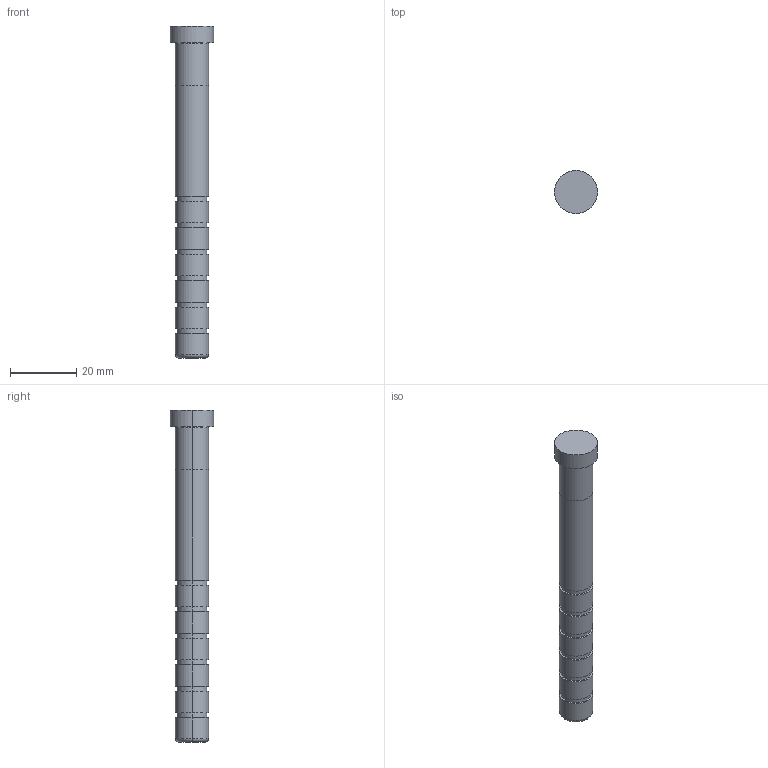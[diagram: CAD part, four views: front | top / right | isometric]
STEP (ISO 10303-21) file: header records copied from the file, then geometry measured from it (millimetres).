
FILE_DESCRIPTION(/* description */ (''),/* implementation_level */ '2;1');
FILE_NAME(/* name */ '3d_sgoh10-100_05222_r00.stp',/* time_stamp */ '2011-01-10T14:11:10+09:00',/* author */ ('MISUMI'),/* organization */ (''),/* preprocessor_version */ 'ST-DEVELOPER v11',/* originating_system */ 'UGS - NX 5.0',/* authorisation */ '');
FILE_SCHEMA (('CONFIG_CONTROL_DESIGN'));
Length unit declared in the file: millimetre
Products named in the file (1): 3d_sgoh10-100_05222_r00
Bounding box: 13 x 13 x 100 mm (x, y, z)
Volume: 7984.6 mm3; surface area: 3587.7 mm2
Topology: 1 solids, 1 shells, 49 faces, 96 edges, 62 vertices
Faces by surface type: cylinder 30, plane 15, torus 4
Entity records: 1374 total; most frequent: DIRECTION 262, CARTESIAN_POINT 208, ORIENTED_EDGE 192, AXIS2_PLACEMENT_3D 116, EDGE_CURVE 96, CIRCLE 66, EDGE_LOOP 62, VERTEX_POINT 62
